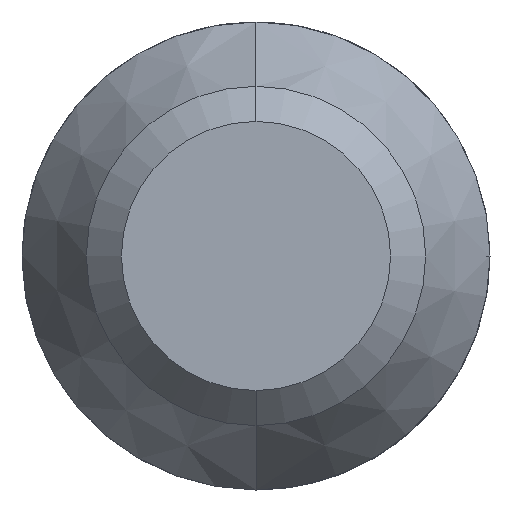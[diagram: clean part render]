
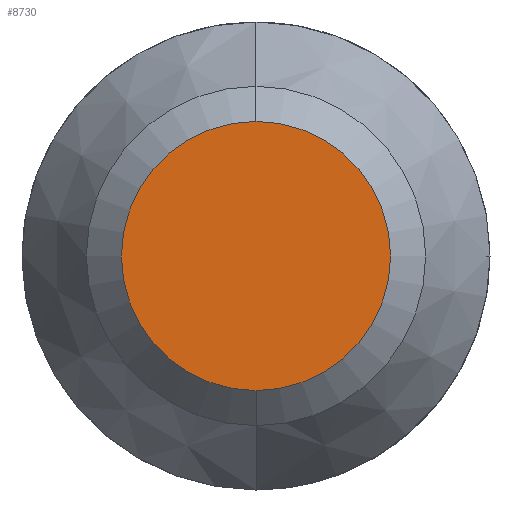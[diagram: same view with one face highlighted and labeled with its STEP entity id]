
A CAD part, front view. The second image highlights one B-rep face of the part: STEP entity #8730.
In plain terms, the highlighted planar face has unit normal (0, -1, 0).
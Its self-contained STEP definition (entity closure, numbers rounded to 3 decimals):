
#792 = DIRECTION ( 'NONE',  ( 0., -1., 0. ) ) ;
#1654 = CARTESIAN_POINT ( 'NONE',  ( 0., 0., 1.15 ) ) ;
#1721 = EDGE_LOOP ( 'NONE', ( #5954, #5006 ) ) ;
#1812 = EDGE_CURVE ( 'NONE', #7819, #4305, #3395, .T. ) ;
#3395 = CIRCLE ( 'NONE', #9198, 1.15 ) ;
#3993 = CIRCLE ( 'NONE', #9290, 1.15 ) ;
#4049 = CARTESIAN_POINT ( 'NONE',  ( 0., 0., -1.15 ) ) ;
#4078 = DIRECTION ( 'NONE',  ( 0., -1., 0. ) ) ;
#4305 = VERTEX_POINT ( 'NONE', #4049 ) ;
#4854 = CARTESIAN_POINT ( 'NONE',  ( 0., 0., 0. ) ) ;
#4931 = CARTESIAN_POINT ( 'NONE',  ( 0., 0., 0. ) ) ;
#4973 = EDGE_CURVE ( 'NONE', #4305, #7819, #3993, .T. ) ;
#5006 = ORIENTED_EDGE ( 'NONE', *, *, #4973, .T. ) ;
#5954 = ORIENTED_EDGE ( 'NONE', *, *, #1812, .T. ) ;
#7091 = FACE_OUTER_BOUND ( 'NONE', #1721, .T. ) ;
#7819 = VERTEX_POINT ( 'NONE', #1654 ) ;
#7882 = CARTESIAN_POINT ( 'NONE',  ( 0., 0., 1.45 ) ) ;
#8077 = DIRECTION ( 'NONE',  ( 0., 0., -1. ) ) ;
#8100 = DIRECTION ( 'NONE',  ( 0., 0., -1. ) ) ;
#8654 = PLANE ( 'NONE',  #10102 ) ;
#8730 = ADVANCED_FACE ( 'NONE', ( #7091 ), #8654, .T. ) ;
#8777 = DIRECTION ( 'NONE',  ( 0., -1., 0. ) ) ;
#9198 = AXIS2_PLACEMENT_3D ( 'NONE', #4931, #8777, #8100 ) ;
#9290 = AXIS2_PLACEMENT_3D ( 'NONE', #4854, #4078, #9679 ) ;
#9679 = DIRECTION ( 'NONE',  ( 0., 0., -1. ) ) ;
#10102 = AXIS2_PLACEMENT_3D ( 'NONE', #7882, #792, #8077 ) ;
